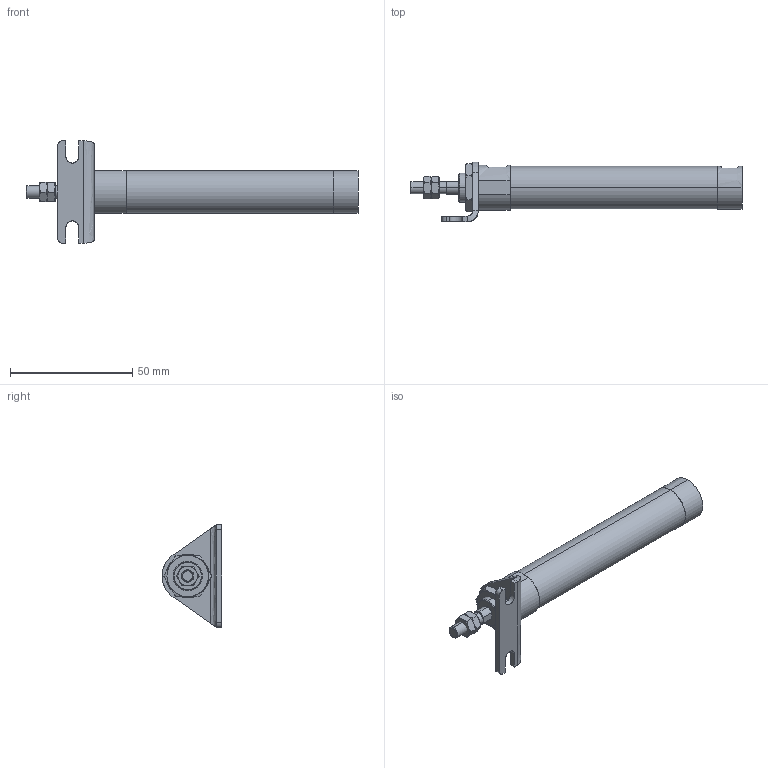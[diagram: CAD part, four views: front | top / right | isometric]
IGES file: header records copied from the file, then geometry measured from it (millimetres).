
Start section: SolidWorks IGES file using analytic representation for surfaces
Global section: file name: C:\Users\Toshiba\Desktop\ZGU2-16-60-L.IGS; native system: SolidWorks 2014; preprocessor: SolidWorks 2014; author: Toshiba; date: 160331.090138; units: millimetre
Bounding box: 136 x 24.5 x 42 mm (x, y, z)
Surface area: 10432.6 mm2 (no closed solid volume)
Topology: 0 solids, 0 shells, 134 faces, 2010 edges, 2006 vertices
Faces by surface type: bspline 94, revolution 40
